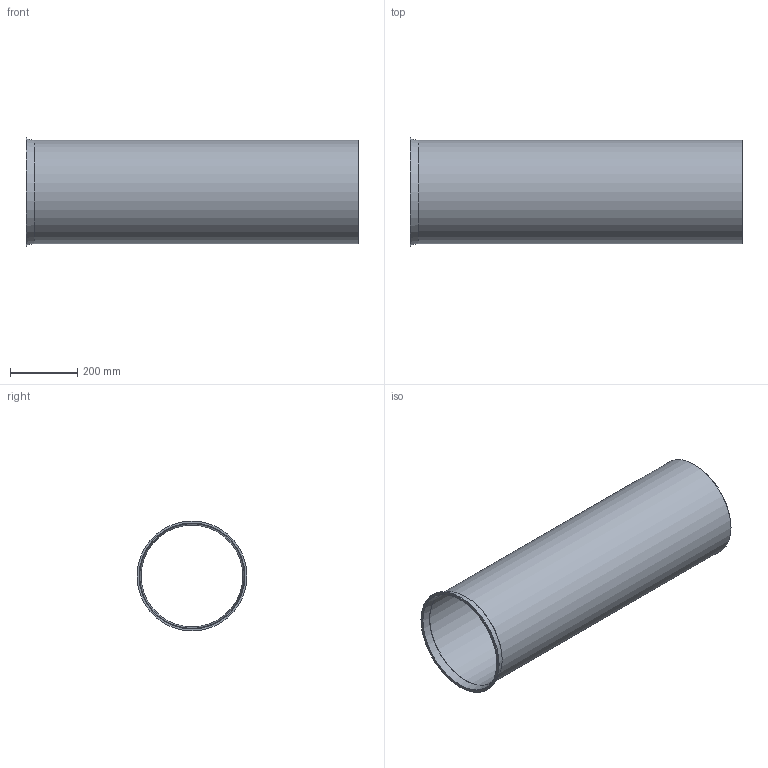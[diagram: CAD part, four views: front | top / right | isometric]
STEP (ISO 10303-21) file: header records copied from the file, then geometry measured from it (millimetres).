
FILE_DESCRIPTION((''),'2;1');
FILE_NAME('U:\Wolfgang\Marcel-3D\fertig\Kapitel 1\3111006.stp','2010-05-31T11:40:34',('TK2'),(''),'Autodesk Inventor 2010','Autodesk Inventor 2010','');
FILE_SCHEMA(('AUTOMOTIVE_DESIGN { 1 0 10303 214 1 1 1 1 }'));
Length unit declared in the file: millimetre
Products named in the file (1): 3111006
Bounding box: 991 x 328 x 328 mm (x, y, z)
Volume: 1918551.8 mm3; surface area: 1922524.5 mm2
Topology: 1 solids, 1 shells, 8 faces, 14 edges, 9 vertices
Faces by surface type: cylinder 3, plane 3, cone 2
Full cylindrical faces by diameter (mm): 304 x1, 308 x1, 328 x1
Entity records: 194 total; most frequent: DIRECTION 34, CARTESIAN_POINT 25, AXIS2_PLACEMENT_3D 17, ORIENTED_EDGE 16, EDGE_LOOP 16, VERTEX_POINT 8, CIRCLE 8, EDGE_CURVE 8
